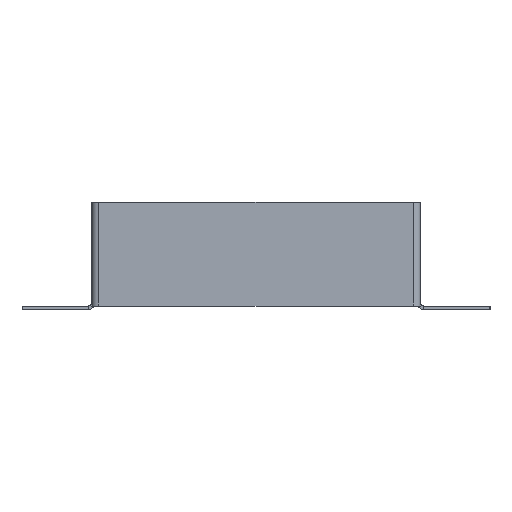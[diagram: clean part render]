
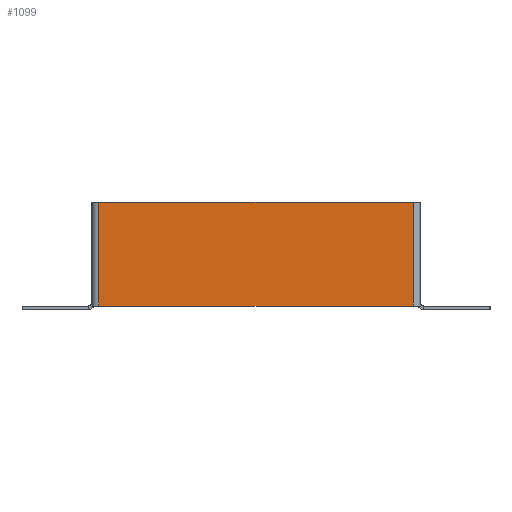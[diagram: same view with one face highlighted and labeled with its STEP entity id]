
A CAD part, front view. The second image highlights one B-rep face of the part: STEP entity #1099.
In plain terms, the highlighted planar face has unit normal (0, -1, 0).
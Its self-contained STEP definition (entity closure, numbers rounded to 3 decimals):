
#421 = VERTEX_POINT ( 'NONE', #3229 ) ;
#499 = DIRECTION ( 'NONE',  ( -1., 0., 0. ) ) ;
#1099 = ADVANCED_FACE ( 'NONE', ( #5537 ), #1203, .F. ) ;
#1145 = VERTEX_POINT ( 'NONE', #6669 ) ;
#1152 = CARTESIAN_POINT ( 'NONE',  ( 88., -2., -58. ) ) ;
#1203 = PLANE ( 'NONE',  #6285 ) ;
#1225 = EDGE_LOOP ( 'NONE', ( #3815, #4457, #2902, #5362 ) ) ;
#1436 = EDGE_CURVE ( 'NONE', #5615, #421, #5629, .T. ) ;
#1440 = VECTOR ( 'NONE', #4002, 1000. ) ;
#1985 = CARTESIAN_POINT ( 'NONE',  ( 88., -2., 0. ) ) ;
#2043 = CARTESIAN_POINT ( 'NONE',  ( -88., -2., 0. ) ) ;
#2603 = DIRECTION ( 'NONE',  ( 0., 0., -1. ) ) ;
#2763 = VECTOR ( 'NONE', #2603, 1000. ) ;
#2893 = CARTESIAN_POINT ( 'NONE',  ( 0., -2., 0. ) ) ;
#2902 = ORIENTED_EDGE ( 'NONE', *, *, #3444, .T. ) ;
#2942 = VECTOR ( 'NONE', #499, 1000. ) ;
#3229 = CARTESIAN_POINT ( 'NONE',  ( -88., -2., -58. ) ) ;
#3231 = DIRECTION ( 'NONE',  ( 1., 0., 0. ) ) ;
#3444 = EDGE_CURVE ( 'NONE', #1145, #6934, #6029, .T. ) ;
#3512 = DIRECTION ( 'NONE',  ( 0., 0., 1. ) ) ;
#3771 = VECTOR ( 'NONE', #3231, 1000. ) ;
#3815 = ORIENTED_EDGE ( 'NONE', *, *, #1436, .T. ) ;
#4002 = DIRECTION ( 'NONE',  ( 0., 0., 1. ) ) ;
#4457 = ORIENTED_EDGE ( 'NONE', *, *, #7234, .F. ) ;
#5362 = ORIENTED_EDGE ( 'NONE', *, *, #6303, .F. ) ;
#5537 = FACE_OUTER_BOUND ( 'NONE', #1225, .T. ) ;
#5615 = VERTEX_POINT ( 'NONE', #5944 ) ;
#5629 = LINE ( 'NONE', #2043, #2763 ) ;
#5944 = CARTESIAN_POINT ( 'NONE',  ( -88., -2., 0. ) ) ;
#6029 = LINE ( 'NONE', #1152, #1440 ) ;
#6161 = CARTESIAN_POINT ( 'NONE',  ( -90., -2., 0. ) ) ;
#6285 = AXIS2_PLACEMENT_3D ( 'NONE', #2893, #6359, #3512 ) ;
#6303 = EDGE_CURVE ( 'NONE', #5615, #6934, #6896, .T. ) ;
#6359 = DIRECTION ( 'NONE',  ( 0., 1., 0. ) ) ;
#6669 = CARTESIAN_POINT ( 'NONE',  ( 88., -2., -58. ) ) ;
#6896 = LINE ( 'NONE', #6161, #3771 ) ;
#6934 = VERTEX_POINT ( 'NONE', #1985 ) ;
#7217 = LINE ( 'NONE', #7355, #2942 ) ;
#7234 = EDGE_CURVE ( 'NONE', #1145, #421, #7217, .T. ) ;
#7355 = CARTESIAN_POINT ( 'NONE',  ( -90., -2., -58. ) ) ;
